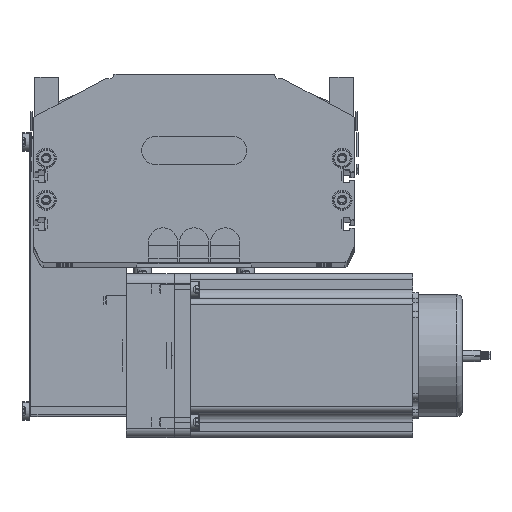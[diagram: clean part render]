
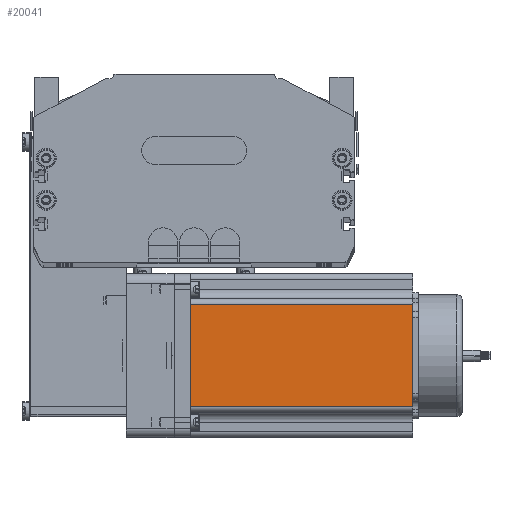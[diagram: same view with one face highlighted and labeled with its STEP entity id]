
A CAD part, top view. The second image highlights one B-rep face of the part: STEP entity #20041.
In plain terms, the highlighted planar face has unit normal (0, 0, 1) as drawn and (0, -1, 0) by its records, which use the part's own axes.
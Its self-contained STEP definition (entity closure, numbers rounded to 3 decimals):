
#19640 = EDGE_CURVE ( 'NONE', #20036, #20043, #43290, .T. ) ;
#19643 = ORIENTED_EDGE ( 'NONE', *, *, #19640, .T. ) ;
#20004 = VERTEX_POINT ( 'NONE', #45196 ) ;
#20014 = VERTEX_POINT ( 'NONE', #45596 ) ;
#20024 = EDGE_LOOP ( 'NONE', ( #20076, #20042, #20094, #19643 ) ) ;
#20036 = VERTEX_POINT ( 'NONE', #45386 ) ;
#20038 = EDGE_CURVE ( 'NONE', #20043, #20014, #45539, .T. ) ;
#20041 = ADVANCED_FACE ( 'NONE', ( #45385 ), #45534, .F. ) ;
#20042 = ORIENTED_EDGE ( 'NONE', *, *, #20083, .T. ) ;
#20043 = VERTEX_POINT ( 'NONE', #45579 ) ;
#20076 = ORIENTED_EDGE ( 'NONE', *, *, #20038, .T. ) ;
#20079 = EDGE_CURVE ( 'NONE', #20036, #20004, #45578, .T. ) ;
#20083 = EDGE_CURVE ( 'NONE', #20014, #20004, #45415, .T. ) ;
#20094 = ORIENTED_EDGE ( 'NONE', *, *, #20079, .F. ) ;
#43287 = DIRECTION ( 'NONE',  ( 0., 0., -1. ) ) ;
#43288 = VECTOR ( 'NONE', #43287, 1000. ) ;
#43289 = CARTESIAN_POINT ( 'NONE',  ( 16.16, 0., 116.5 ) ) ;
#43290 = LINE ( 'NONE', #43289, #43288 ) ;
#45196 = CARTESIAN_POINT ( 'NONE',  ( 69.74, 0., 116.5 ) ) ;
#45385 = FACE_OUTER_BOUND ( 'NONE', #20024, .T. ) ;
#45386 = CARTESIAN_POINT ( 'NONE',  ( 16.16, 0., 116.5 ) ) ;
#45415 = LINE ( 'NONE', #45512, #45508 ) ;
#45451 = DIRECTION ( 'NONE',  ( 1., 0., 0. ) ) ;
#45452 = VECTOR ( 'NONE', #45451, 1000. ) ;
#45454 = DIRECTION ( 'NONE',  ( 0., 0., 1. ) ) ;
#45459 = DIRECTION ( 'NONE',  ( 1., 0., 0. ) ) ;
#45460 = VECTOR ( 'NONE', #45459, 1000. ) ;
#45462 = CARTESIAN_POINT ( 'NONE',  ( 0., 0., 116.5 ) ) ;
#45506 = DIRECTION ( 'NONE',  ( 0., 0., 1. ) ) ;
#45508 = VECTOR ( 'NONE', #45506, 1000. ) ;
#45512 = CARTESIAN_POINT ( 'NONE',  ( 69.74, 0., 116.5 ) ) ;
#45530 = AXIS2_PLACEMENT_3D ( 'NONE', #45540, #45550, #45454 ) ;
#45534 = PLANE ( 'NONE',  #45530 ) ;
#45538 = CARTESIAN_POINT ( 'NONE',  ( 0., 0., 0. ) ) ;
#45539 = LINE ( 'NONE', #45538, #45452 ) ;
#45540 = CARTESIAN_POINT ( 'NONE',  ( 0., 0., 116.5 ) ) ;
#45550 = DIRECTION ( 'NONE',  ( 0., 1., 0. ) ) ;
#45578 = LINE ( 'NONE', #45462, #45460 ) ;
#45579 = CARTESIAN_POINT ( 'NONE',  ( 16.16, 0., 0. ) ) ;
#45596 = CARTESIAN_POINT ( 'NONE',  ( 69.74, 0., 0. ) ) ;
